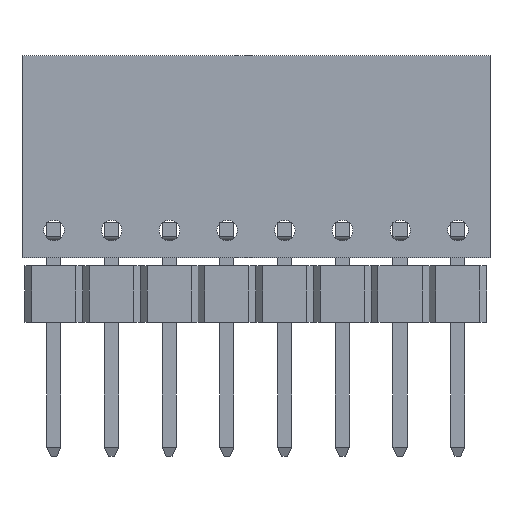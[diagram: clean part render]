
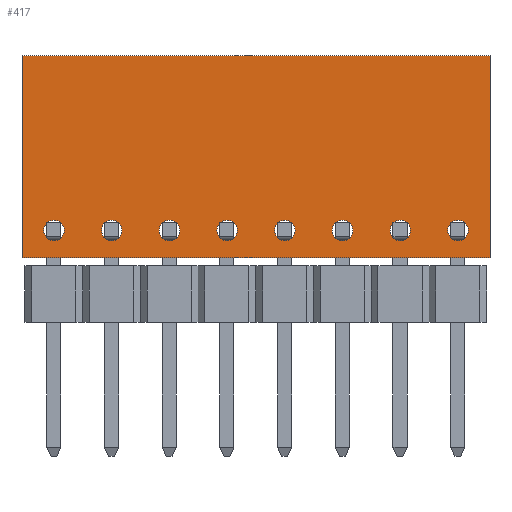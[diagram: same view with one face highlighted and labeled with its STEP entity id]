
A CAD part, front view. The second image highlights one B-rep face of the part: STEP entity #417.
In plain terms, the highlighted planar face has unit normal (0, -1, 0).
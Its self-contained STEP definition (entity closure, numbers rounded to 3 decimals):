
#2=CARTESIAN_POINT('',(1.41,0.,-7.7));
#3=DIRECTION('',(0.,-1.,0.));
#4=DIRECTION('',(1.,0.,0.));
#5=AXIS2_PLACEMENT_3D('',#2,#3,#4);
#7=CARTESIAN_POINT('',(1.41,0.,-7.7));
#8=DIRECTION('',(0.,-1.,0.));
#9=DIRECTION('',(-1.,0.,0.));
#10=AXIS2_PLACEMENT_3D('',#7,#8,#9);
#12=CARTESIAN_POINT('',(3.95,0.,-7.7));
#13=DIRECTION('',(0.,-1.,0.));
#14=DIRECTION('',(1.,0.,0.));
#15=AXIS2_PLACEMENT_3D('',#12,#13,#14);
#17=CARTESIAN_POINT('',(3.95,0.,-7.7));
#18=DIRECTION('',(0.,-1.,0.));
#19=DIRECTION('',(-1.,0.,0.));
#20=AXIS2_PLACEMENT_3D('',#17,#18,#19);
#22=CARTESIAN_POINT('',(6.49,0.,-7.7));
#23=DIRECTION('',(0.,-1.,0.));
#24=DIRECTION('',(1.,0.,0.));
#25=AXIS2_PLACEMENT_3D('',#22,#23,#24);
#27=CARTESIAN_POINT('',(6.49,0.,-7.7));
#28=DIRECTION('',(0.,-1.,0.));
#29=DIRECTION('',(-1.,0.,0.));
#30=AXIS2_PLACEMENT_3D('',#27,#28,#29);
#32=CARTESIAN_POINT('',(9.03,0.,-7.7));
#33=DIRECTION('',(0.,-1.,0.));
#34=DIRECTION('',(1.,0.,0.));
#35=AXIS2_PLACEMENT_3D('',#32,#33,#34);
#37=CARTESIAN_POINT('',(9.03,0.,-7.7));
#38=DIRECTION('',(0.,-1.,0.));
#39=DIRECTION('',(-1.,0.,0.));
#40=AXIS2_PLACEMENT_3D('',#37,#38,#39);
#42=CARTESIAN_POINT('',(11.57,0.,-7.7));
#43=DIRECTION('',(0.,-1.,0.));
#44=DIRECTION('',(1.,0.,0.));
#45=AXIS2_PLACEMENT_3D('',#42,#43,#44);
#47=CARTESIAN_POINT('',(11.57,0.,-7.7));
#48=DIRECTION('',(0.,-1.,0.));
#49=DIRECTION('',(-1.,0.,0.));
#50=AXIS2_PLACEMENT_3D('',#47,#48,#49);
#52=CARTESIAN_POINT('',(14.11,0.,-7.7));
#53=DIRECTION('',(0.,-1.,0.));
#54=DIRECTION('',(1.,0.,0.));
#55=AXIS2_PLACEMENT_3D('',#52,#53,#54);
#57=CARTESIAN_POINT('',(14.11,0.,-7.7));
#58=DIRECTION('',(0.,-1.,0.));
#59=DIRECTION('',(-1.,0.,0.));
#60=AXIS2_PLACEMENT_3D('',#57,#58,#59);
#62=CARTESIAN_POINT('',(16.65,0.,-7.7));
#63=DIRECTION('',(0.,-1.,0.));
#64=DIRECTION('',(1.,0.,0.));
#65=AXIS2_PLACEMENT_3D('',#62,#63,#64);
#67=CARTESIAN_POINT('',(16.65,0.,-7.7));
#68=DIRECTION('',(0.,-1.,0.));
#69=DIRECTION('',(-1.,0.,0.));
#70=AXIS2_PLACEMENT_3D('',#67,#68,#69);
#72=CARTESIAN_POINT('',(19.19,0.,-7.7));
#73=DIRECTION('',(0.,-1.,0.));
#74=DIRECTION('',(1.,0.,0.));
#75=AXIS2_PLACEMENT_3D('',#72,#73,#74);
#77=CARTESIAN_POINT('',(19.19,0.,-7.7));
#78=DIRECTION('',(0.,-1.,0.));
#79=DIRECTION('',(-1.,0.,0.));
#80=AXIS2_PLACEMENT_3D('',#77,#78,#79);
#82=DIRECTION('',(0.,0.,1.));
#83=VECTOR('',#82,8.9);
#84=CARTESIAN_POINT('',(0.,0.,-8.9));
#85=LINE('',#84,#83);
#86=DIRECTION('',(1.,0.,0.));
#87=VECTOR('',#86,20.6);
#88=CARTESIAN_POINT('',(0.,0.,0.));
#89=LINE('',#88,#87);
#90=DIRECTION('',(0.,0.,-1.));
#91=VECTOR('',#90,8.9);
#92=CARTESIAN_POINT('',(20.6,0.,0.));
#93=LINE('',#92,#91);
#94=DIRECTION('',(-1.,0.,0.));
#95=VECTOR('',#94,20.6);
#96=CARTESIAN_POINT('',(20.6,0.,-8.9));
#97=LINE('',#96,#95);
#274=CARTESIAN_POINT('',(1.86,0.,-7.7));
#275=CARTESIAN_POINT('',(0.96,0.,-7.7));
#276=VERTEX_POINT('',#274);
#277=VERTEX_POINT('',#275);
#278=CARTESIAN_POINT('',(4.4,0.,-7.7));
#279=CARTESIAN_POINT('',(3.5,0.,-7.7));
#280=VERTEX_POINT('',#278);
#281=VERTEX_POINT('',#279);
#282=CARTESIAN_POINT('',(6.94,0.,-7.7));
#283=CARTESIAN_POINT('',(6.04,0.,-7.7));
#284=VERTEX_POINT('',#282);
#285=VERTEX_POINT('',#283);
#286=CARTESIAN_POINT('',(9.48,0.,-7.7));
#287=CARTESIAN_POINT('',(8.58,0.,-7.7));
#288=VERTEX_POINT('',#286);
#289=VERTEX_POINT('',#287);
#290=CARTESIAN_POINT('',(12.02,0.,-7.7));
#291=CARTESIAN_POINT('',(11.12,0.,-7.7));
#292=VERTEX_POINT('',#290);
#293=VERTEX_POINT('',#291);
#294=CARTESIAN_POINT('',(14.56,0.,-7.7));
#295=CARTESIAN_POINT('',(13.66,0.,-7.7));
#296=VERTEX_POINT('',#294);
#297=VERTEX_POINT('',#295);
#298=CARTESIAN_POINT('',(17.1,0.,-7.7));
#299=CARTESIAN_POINT('',(16.2,0.,-7.7));
#300=VERTEX_POINT('',#298);
#301=VERTEX_POINT('',#299);
#302=CARTESIAN_POINT('',(19.64,0.,-7.7));
#303=CARTESIAN_POINT('',(18.74,0.,-7.7));
#304=VERTEX_POINT('',#302);
#305=VERTEX_POINT('',#303);
#306=CARTESIAN_POINT('',(0.,0.,-8.9));
#307=CARTESIAN_POINT('',(0.,0.,0.));
#308=VERTEX_POINT('',#306);
#309=VERTEX_POINT('',#307);
#310=CARTESIAN_POINT('',(20.6,0.,0.));
#311=VERTEX_POINT('',#310);
#312=CARTESIAN_POINT('',(20.6,0.,-8.9));
#313=VERTEX_POINT('',#312);
#354=CARTESIAN_POINT('',(0.,0.,0.));
#355=DIRECTION('',(0.,1.,0.));
#356=DIRECTION('',(1.,0.,0.));
#357=AXIS2_PLACEMENT_3D('',#354,#355,#356);
#358=PLANE('',#357);
#360=ORIENTED_EDGE('',*,*,#359,.T.);
#362=ORIENTED_EDGE('',*,*,#361,.T.);
#364=ORIENTED_EDGE('',*,*,#363,.T.);
#366=ORIENTED_EDGE('',*,*,#365,.T.);
#367=EDGE_LOOP('',(#360,#362,#364,#366));
#368=FACE_OUTER_BOUND('',#367,.F.);
#370=ORIENTED_EDGE('',*,*,#369,.T.);
#372=ORIENTED_EDGE('',*,*,#371,.T.);
#373=EDGE_LOOP('',(#370,#372));
#374=FACE_BOUND('',#373,.F.);
#376=ORIENTED_EDGE('',*,*,#375,.T.);
#378=ORIENTED_EDGE('',*,*,#377,.T.);
#379=EDGE_LOOP('',(#376,#378));
#380=FACE_BOUND('',#379,.F.);
#382=ORIENTED_EDGE('',*,*,#381,.T.);
#384=ORIENTED_EDGE('',*,*,#383,.T.);
#385=EDGE_LOOP('',(#382,#384));
#386=FACE_BOUND('',#385,.F.);
#388=ORIENTED_EDGE('',*,*,#387,.T.);
#390=ORIENTED_EDGE('',*,*,#389,.T.);
#391=EDGE_LOOP('',(#388,#390));
#392=FACE_BOUND('',#391,.F.);
#394=ORIENTED_EDGE('',*,*,#393,.T.);
#396=ORIENTED_EDGE('',*,*,#395,.T.);
#397=EDGE_LOOP('',(#394,#396));
#398=FACE_BOUND('',#397,.F.);
#400=ORIENTED_EDGE('',*,*,#399,.T.);
#402=ORIENTED_EDGE('',*,*,#401,.T.);
#403=EDGE_LOOP('',(#400,#402));
#404=FACE_BOUND('',#403,.F.);
#406=ORIENTED_EDGE('',*,*,#405,.T.);
#408=ORIENTED_EDGE('',*,*,#407,.T.);
#409=EDGE_LOOP('',(#406,#408));
#410=FACE_BOUND('',#409,.F.);
#412=ORIENTED_EDGE('',*,*,#411,.T.);
#414=ORIENTED_EDGE('',*,*,#413,.T.);
#415=EDGE_LOOP('',(#412,#414));
#416=FACE_BOUND('',#415,.F.);
#417=ADVANCED_FACE('',(#368,#374,#380,#386,#392,#398,#404,#410,#416),#358,.F.);
#6=CIRCLE('',#5,0.45);
#11=CIRCLE('',#10,0.45);
#16=CIRCLE('',#15,0.45);
#21=CIRCLE('',#20,0.45);
#26=CIRCLE('',#25,0.45);
#31=CIRCLE('',#30,0.45);
#36=CIRCLE('',#35,0.45);
#41=CIRCLE('',#40,0.45);
#46=CIRCLE('',#45,0.45);
#51=CIRCLE('',#50,0.45);
#56=CIRCLE('',#55,0.45);
#61=CIRCLE('',#60,0.45);
#66=CIRCLE('',#65,0.45);
#71=CIRCLE('',#70,0.45);
#76=CIRCLE('',#75,0.45);
#81=CIRCLE('',#80,0.45);
#359=EDGE_CURVE('',#308,#309,#85,.T.);
#361=EDGE_CURVE('',#309,#311,#89,.T.);
#363=EDGE_CURVE('',#311,#313,#93,.T.);
#365=EDGE_CURVE('',#313,#308,#97,.T.);
#369=EDGE_CURVE('',#276,#277,#6,.T.);
#371=EDGE_CURVE('',#277,#276,#11,.T.);
#375=EDGE_CURVE('',#280,#281,#16,.T.);
#377=EDGE_CURVE('',#281,#280,#21,.T.);
#381=EDGE_CURVE('',#284,#285,#26,.T.);
#383=EDGE_CURVE('',#285,#284,#31,.T.);
#387=EDGE_CURVE('',#288,#289,#36,.T.);
#389=EDGE_CURVE('',#289,#288,#41,.T.);
#393=EDGE_CURVE('',#292,#293,#46,.T.);
#395=EDGE_CURVE('',#293,#292,#51,.T.);
#399=EDGE_CURVE('',#296,#297,#56,.T.);
#401=EDGE_CURVE('',#297,#296,#61,.T.);
#405=EDGE_CURVE('',#300,#301,#66,.T.);
#407=EDGE_CURVE('',#301,#300,#71,.T.);
#411=EDGE_CURVE('',#304,#305,#76,.T.);
#413=EDGE_CURVE('',#305,#304,#81,.T.);
